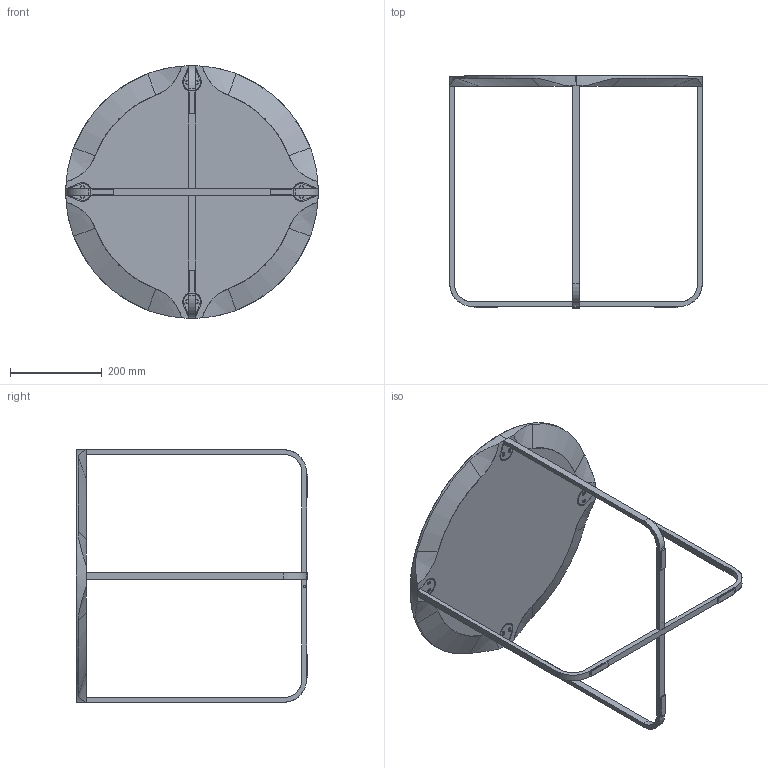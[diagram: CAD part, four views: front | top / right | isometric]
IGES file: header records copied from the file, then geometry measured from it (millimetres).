
Start section: SolidWorks IGES file using analytic representation for surfaces
Global section: file name: G:\CAD-FILES\3D Montis\3D_IGS\Flint tafel 0550-500.IGS; native system: SolidWorks 2007; preprocessor: SolidWorks 2007; author: gerard; date: 060929.091003; units: millimetre
Bounding box: 550 x 505 x 550 mm (x, y, z)
Surface area: 655103.8 mm2 (no closed solid volume)
Topology: 0 solids, 0 shells, 189 faces, 2764 edges, 2764 vertices
Faces by surface type: revolution 100, bspline 89
